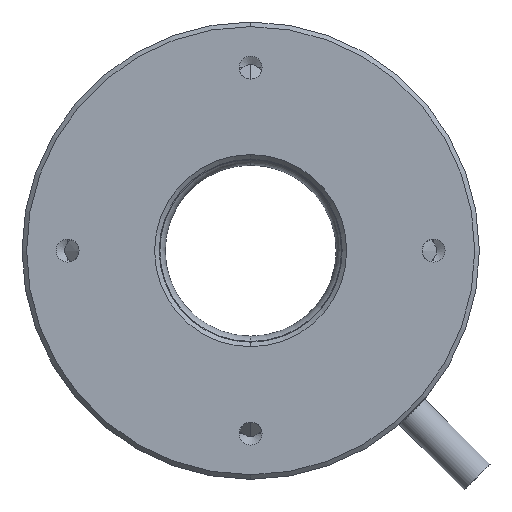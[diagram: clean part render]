
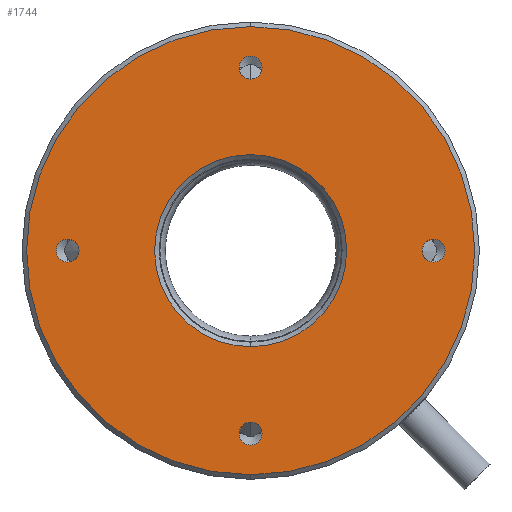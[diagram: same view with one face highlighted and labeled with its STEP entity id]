
A CAD part, front view. The second image highlights one B-rep face of the part: STEP entity #1744.
In plain terms, the highlighted planar face has unit normal (0, -1, 0).
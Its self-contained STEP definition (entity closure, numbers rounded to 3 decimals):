
#46 = ORIENTED_EDGE ( 'NONE', *, *, #977, .F. ) ;
#110 = DIRECTION ( 'NONE',  ( -1., 0., 0. ) ) ;
#133 = EDGE_LOOP ( 'NONE', ( #992, #1123 ) ) ;
#153 = CARTESIAN_POINT ( 'NONE',  ( 20., 0., 0. ) ) ;
#155 = VERTEX_POINT ( 'NONE', #2656 ) ;
#223 = CARTESIAN_POINT ( 'NONE',  ( 0., 0., -20. ) ) ;
#244 = CARTESIAN_POINT ( 'NONE',  ( 0., 0., 10.5 ) ) ;
#245 = CARTESIAN_POINT ( 'NONE',  ( 0., 0., 0. ) ) ;
#278 = AXIS2_PLACEMENT_3D ( 'NONE', #3141, #1597, #1541 ) ;
#308 = FACE_BOUND ( 'NONE', #133, .T. ) ;
#345 = DIRECTION ( 'NONE',  ( 0., 0., 1. ) ) ;
#351 = ORIENTED_EDGE ( 'NONE', *, *, #2668, .F. ) ;
#376 = CARTESIAN_POINT ( 'NONE',  ( -1.25, 0., 20. ) ) ;
#377 = ORIENTED_EDGE ( 'NONE', *, *, #1411, .F. ) ;
#398 = VERTEX_POINT ( 'NONE', #3178 ) ;
#419 = VERTEX_POINT ( 'NONE', #2090 ) ;
#448 = CIRCLE ( 'NONE', #2296, 1.25 ) ;
#483 = VERTEX_POINT ( 'NONE', #2465 ) ;
#512 = FACE_BOUND ( 'NONE', #1763, .T. ) ;
#636 = VERTEX_POINT ( 'NONE', #244 ) ;
#700 = EDGE_CURVE ( 'NONE', #1442, #2076, #860, .T. ) ;
#757 = AXIS2_PLACEMENT_3D ( 'NONE', #3153, #3113, #1274 ) ;
#779 = CIRCLE ( 'NONE', #278, 1.25 ) ;
#828 = DIRECTION ( 'NONE',  ( 0., -1., 0. ) ) ;
#848 = CIRCLE ( 'NONE', #2549, 1.25 ) ;
#853 = CIRCLE ( 'NONE', #2351, 1.25 ) ;
#860 = CIRCLE ( 'NONE', #2709, 1.25 ) ;
#863 = CARTESIAN_POINT ( 'NONE',  ( -1.25, 0., -20. ) ) ;
#878 = VERTEX_POINT ( 'NONE', #863 ) ;
#887 = EDGE_LOOP ( 'NONE', ( #1263, #1002 ) ) ;
#925 = CIRCLE ( 'NONE', #2118, 24.5 ) ;
#975 = VERTEX_POINT ( 'NONE', #1998 ) ;
#977 = EDGE_CURVE ( 'NONE', #975, #483, #853, .T. ) ;
#992 = ORIENTED_EDGE ( 'NONE', *, *, #2924, .F. ) ;
#1002 = ORIENTED_EDGE ( 'NONE', *, *, #1447, .T. ) ;
#1020 = EDGE_LOOP ( 'NONE', ( #1325, #351 ) ) ;
#1037 = CARTESIAN_POINT ( 'NONE',  ( 0., 0., 0. ) ) ;
#1038 = AXIS2_PLACEMENT_3D ( 'NONE', #1658, #2839, #2810 ) ;
#1056 = DIRECTION ( 'NONE',  ( 0., -1., 0. ) ) ;
#1070 = DIRECTION ( 'NONE',  ( -1., 0., 0. ) ) ;
#1077 = DIRECTION ( 'NONE',  ( 0., -1., 0. ) ) ;
#1096 = VERTEX_POINT ( 'NONE', #2195 ) ;
#1123 = ORIENTED_EDGE ( 'NONE', *, *, #1132, .F. ) ;
#1129 = VERTEX_POINT ( 'NONE', #3104 ) ;
#1132 = EDGE_CURVE ( 'NONE', #1096, #1647, #2464, .T. ) ;
#1138 = DIRECTION ( 'NONE',  ( 0., 1., 0. ) ) ;
#1142 = AXIS2_PLACEMENT_3D ( 'NONE', #1037, #1138, #2322 ) ;
#1176 = ORIENTED_EDGE ( 'NONE', *, *, #1920, .F. ) ;
#1220 = ORIENTED_EDGE ( 'NONE', *, *, #2619, .F. ) ;
#1263 = ORIENTED_EDGE ( 'NONE', *, *, #1821, .T. ) ;
#1265 = CARTESIAN_POINT ( 'NONE',  ( 1.25, 0., 20. ) ) ;
#1274 = DIRECTION ( 'NONE',  ( 0., 0., 1. ) ) ;
#1325 = ORIENTED_EDGE ( 'NONE', *, *, #2544, .F. ) ;
#1344 = DIRECTION ( 'NONE',  ( 1., 0., 0. ) ) ;
#1353 = EDGE_LOOP ( 'NONE', ( #1176, #1220 ) ) ;
#1411 = EDGE_CURVE ( 'NONE', #483, #975, #848, .T. ) ;
#1417 = DIRECTION ( 'NONE',  ( 0., -1., 0. ) ) ;
#1425 = CARTESIAN_POINT ( 'NONE',  ( 20., 0., 0. ) ) ;
#1427 = DIRECTION ( 'NONE',  ( 0., 0., -1. ) ) ;
#1442 = VERTEX_POINT ( 'NONE', #376 ) ;
#1447 = EDGE_CURVE ( 'NONE', #419, #398, #3169, .T. ) ;
#1455 = CIRCLE ( 'NONE', #1038, 10.5 ) ;
#1500 = DIRECTION ( 'NONE',  ( 0., 0., -1. ) ) ;
#1541 = DIRECTION ( 'NONE',  ( 1., 0., 0. ) ) ;
#1553 = CIRCLE ( 'NONE', #2854, 1.25 ) ;
#1597 = DIRECTION ( 'NONE',  ( 0., -1., 0. ) ) ;
#1647 = VERTEX_POINT ( 'NONE', #2339 ) ;
#1658 = CARTESIAN_POINT ( 'NONE',  ( 0., 0., 0. ) ) ;
#1661 = DIRECTION ( 'NONE',  ( 0., 0., -1. ) ) ;
#1667 = CIRCLE ( 'NONE', #2257, 10.5 ) ;
#1709 = EDGE_CURVE ( 'NONE', #2076, #1442, #779, .T. ) ;
#1744 = ADVANCED_FACE ( 'NONE', ( #308, #3248, #512, #2874, #2568, #2312 ), #2414, .F. ) ;
#1752 = CARTESIAN_POINT ( 'NONE',  ( -20., 0., 0. ) ) ;
#1759 = DIRECTION ( 'NONE',  ( 0., -1., 0. ) ) ;
#1763 = EDGE_LOOP ( 'NONE', ( #2363, #3186 ) ) ;
#1821 = EDGE_CURVE ( 'NONE', #398, #419, #925, .T. ) ;
#1893 = DIRECTION ( 'NONE',  ( 0., -1., 0. ) ) ;
#1920 = EDGE_CURVE ( 'NONE', #878, #155, #3116, .T. ) ;
#1998 = CARTESIAN_POINT ( 'NONE',  ( 20., 0., -1.25 ) ) ;
#2076 = VERTEX_POINT ( 'NONE', #1265 ) ;
#2090 = CARTESIAN_POINT ( 'NONE',  ( 0., 0., -24.5 ) ) ;
#2111 = DIRECTION ( 'NONE',  ( 0., -1., 0. ) ) ;
#2118 = AXIS2_PLACEMENT_3D ( 'NONE', #2963, #2111, #1661 ) ;
#2189 = CARTESIAN_POINT ( 'NONE',  ( 0., 0., 20. ) ) ;
#2195 = CARTESIAN_POINT ( 'NONE',  ( -20., 0., -1.25 ) ) ;
#2257 = AXIS2_PLACEMENT_3D ( 'NONE', #245, #1893, #1427 ) ;
#2296 = AXIS2_PLACEMENT_3D ( 'NONE', #1752, #1077, #345 ) ;
#2312 = FACE_OUTER_BOUND ( 'NONE', #887, .T. ) ;
#2322 = DIRECTION ( 'NONE',  ( 0., 0., 1. ) ) ;
#2339 = CARTESIAN_POINT ( 'NONE',  ( -20., 0., 1.25 ) ) ;
#2351 = AXIS2_PLACEMENT_3D ( 'NONE', #1425, #1759, #2827 ) ;
#2363 = ORIENTED_EDGE ( 'NONE', *, *, #1709, .F. ) ;
#2414 = PLANE ( 'NONE',  #1142 ) ;
#2433 = CARTESIAN_POINT ( 'NONE',  ( 0., 0., -20. ) ) ;
#2464 = CIRCLE ( 'NONE', #757, 1.25 ) ;
#2465 = CARTESIAN_POINT ( 'NONE',  ( 20., 0., 1.25 ) ) ;
#2544 = EDGE_CURVE ( 'NONE', #1129, #636, #1667, .T. ) ;
#2549 = AXIS2_PLACEMENT_3D ( 'NONE', #153, #828, #2789 ) ;
#2568 = FACE_BOUND ( 'NONE', #1020, .T. ) ;
#2619 = EDGE_CURVE ( 'NONE', #155, #878, #1553, .T. ) ;
#2656 = CARTESIAN_POINT ( 'NONE',  ( 1.25, 0., -20. ) ) ;
#2668 = EDGE_CURVE ( 'NONE', #636, #1129, #1455, .T. ) ;
#2709 = AXIS2_PLACEMENT_3D ( 'NONE', #2189, #3056, #1344 ) ;
#2789 = DIRECTION ( 'NONE',  ( 0., 0., -1. ) ) ;
#2810 = DIRECTION ( 'NONE',  ( 0., 0., -1. ) ) ;
#2827 = DIRECTION ( 'NONE',  ( 0., 0., -1. ) ) ;
#2839 = DIRECTION ( 'NONE',  ( 0., -1., 0. ) ) ;
#2854 = AXIS2_PLACEMENT_3D ( 'NONE', #2433, #3023, #1070 ) ;
#2874 = FACE_BOUND ( 'NONE', #3269, .T. ) ;
#2924 = EDGE_CURVE ( 'NONE', #1647, #1096, #448, .T. ) ;
#2963 = CARTESIAN_POINT ( 'NONE',  ( 0., 0., 0. ) ) ;
#3023 = DIRECTION ( 'NONE',  ( 0., -1., 0. ) ) ;
#3036 = CARTESIAN_POINT ( 'NONE',  ( 0., 0., 0. ) ) ;
#3056 = DIRECTION ( 'NONE',  ( 0., -1., 0. ) ) ;
#3104 = CARTESIAN_POINT ( 'NONE',  ( 0., 0., -10.5 ) ) ;
#3113 = DIRECTION ( 'NONE',  ( 0., -1., 0. ) ) ;
#3116 = CIRCLE ( 'NONE', #3179, 1.25 ) ;
#3138 = AXIS2_PLACEMENT_3D ( 'NONE', #3036, #1417, #1500 ) ;
#3141 = CARTESIAN_POINT ( 'NONE',  ( 0., 0., 20. ) ) ;
#3153 = CARTESIAN_POINT ( 'NONE',  ( -20., 0., 0. ) ) ;
#3169 = CIRCLE ( 'NONE', #3138, 24.5 ) ;
#3178 = CARTESIAN_POINT ( 'NONE',  ( 0., 0., 24.5 ) ) ;
#3179 = AXIS2_PLACEMENT_3D ( 'NONE', #223, #1056, #110 ) ;
#3186 = ORIENTED_EDGE ( 'NONE', *, *, #700, .F. ) ;
#3248 = FACE_BOUND ( 'NONE', #1353, .T. ) ;
#3269 = EDGE_LOOP ( 'NONE', ( #46, #377 ) ) ;
